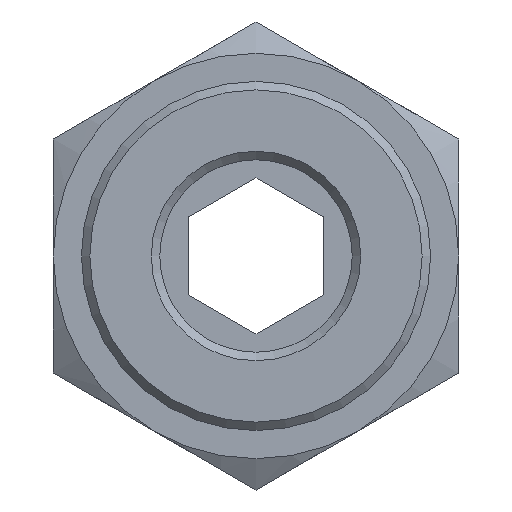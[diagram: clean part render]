
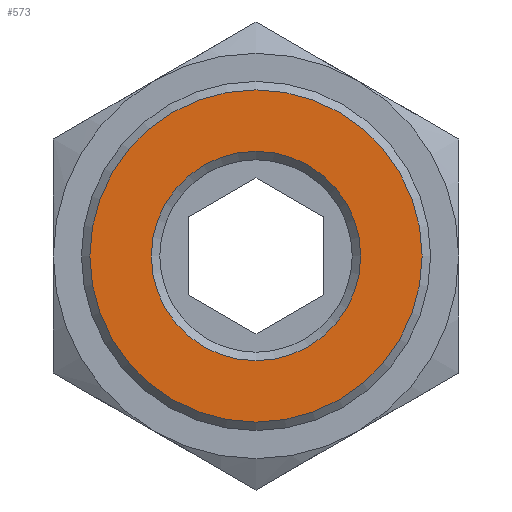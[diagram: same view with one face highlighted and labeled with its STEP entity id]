
A CAD part, front view. The second image highlights one B-rep face of the part: STEP entity #573.
In plain terms, the highlighted planar face has unit normal (0, -1, 0).
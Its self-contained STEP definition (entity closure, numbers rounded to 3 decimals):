
#92=PLANE($,#622);
#122=FACE_BOUND($,#187,.T.);
#146=FACE_OUTER_BOUND($,#186,.T.);
#186=EDGE_LOOP($,(#407));
#187=EDGE_LOOP($,(#408));
#245=CIRCLE($,#619,6.2);
#247=CIRCLE($,#623,9.836);
#274=VERTEX_POINT($,#863);
#276=VERTEX_POINT($,#869);
#327=EDGE_CURVE($,#274,#274,#245,.T.);
#329=EDGE_CURVE($,#276,#276,#247,.T.);
#407=ORIENTED_EDGE($,*,*,#329,.F.);
#408=ORIENTED_EDGE($,*,*,#327,.F.);
#573=ADVANCED_FACE($,(#146,#122),#92,.T.);
#619=AXIS2_PLACEMENT_3D($,#864,#695,#696);
#622=AXIS2_PLACEMENT_3D($,#868,#701,#702);
#623=AXIS2_PLACEMENT_3D($,#870,#703,#704);
#695=DIRECTION('center_axis',(0.,-1.,0.));
#696=DIRECTION('ref_axis',(0.,0.,1.));
#701=DIRECTION('center_axis',(0.,-1.,0.));
#702=DIRECTION('ref_axis',(0.,0.,-1.));
#703=DIRECTION('center_axis',(0.,1.,0.));
#704=DIRECTION('ref_axis',(-1.,0.,0.));
#863=CARTESIAN_POINT('',(0.,-36.67,-6.2));
#864=CARTESIAN_POINT('Origin',(0.,-36.67,0.));
#868=CARTESIAN_POINT('Origin',(5.168,-36.67,0.));
#869=CARTESIAN_POINT('',(9.836,-36.67,0.));
#870=CARTESIAN_POINT('Origin',(0.,-36.67,0.));
